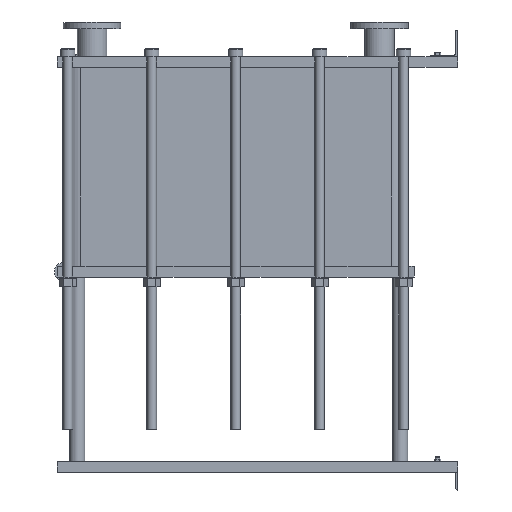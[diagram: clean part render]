
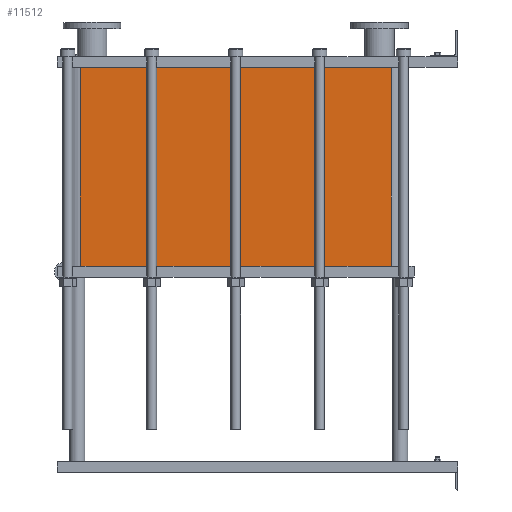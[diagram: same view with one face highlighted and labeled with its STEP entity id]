
A CAD part, left-side view. The second image highlights one B-rep face of the part: STEP entity #11512.
In plain terms, the highlighted planar face has unit normal (-1, 0, 0).
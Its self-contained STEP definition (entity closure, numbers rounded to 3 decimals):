
#1129=LINE('',#23232,#2102);
#1130=LINE('',#23236,#2103);
#1131=LINE('',#23238,#2104);
#1132=LINE('',#23239,#2105);
#2102=VECTOR('',#15887,10.);
#2103=VECTOR('',#15892,10.);
#2104=VECTOR('',#15893,10.);
#2105=VECTOR('',#15894,10.);
#3267=FACE_OUTER_BOUND('',#4093,.T.);
#4093=EDGE_LOOP('',(#10103,#10104,#10105,#10106));
#5642=VERTEX_POINT('',#23229);
#5643=VERTEX_POINT('',#23231);
#5644=VERTEX_POINT('',#23235);
#5645=VERTEX_POINT('',#23237);
#7159=EDGE_CURVE('',#5643,#5642,#1129,.T.);
#7161=EDGE_CURVE('',#5642,#5644,#1130,.T.);
#7162=EDGE_CURVE('',#5645,#5644,#1131,.T.);
#7163=EDGE_CURVE('',#5645,#5643,#1132,.T.);
#10103=ORIENTED_EDGE('',*,*,#7161,.T.);
#10104=ORIENTED_EDGE('',*,*,#7162,.F.);
#10105=ORIENTED_EDGE('',*,*,#7163,.T.);
#10106=ORIENTED_EDGE('',*,*,#7159,.T.);
#10857=PLANE('',#12751);
#11512=ADVANCED_FACE('',(#3267),#10857,.T.);
#12751=AXIS2_PLACEMENT_3D('',#23234,#15890,#15891);
#15887=DIRECTION('',(0.,0.,-1.));
#15890=DIRECTION('center_axis',(-1.,0.,0.));
#15891=DIRECTION('ref_axis',(0.,1.,0.));
#15892=DIRECTION('',(0.,-1.,0.));
#15893=DIRECTION('',(0.,0.,-1.));
#15894=DIRECTION('',(0.,1.,0.));
#23229=CARTESIAN_POINT('',(-200.,1414.,-745.2));
#23231=CARTESIAN_POINT('',(-200.,1414.,0.));
#23232=CARTESIAN_POINT('',(-200.,1414.,0.));
#23234=CARTESIAN_POINT('Origin',(-200.,248.,0.));
#23235=CARTESIAN_POINT('',(-200.,248.,-745.2));
#23236=CARTESIAN_POINT('',(-200.,539.5,-745.2));
#23237=CARTESIAN_POINT('',(-200.,248.,0.));
#23238=CARTESIAN_POINT('',(-200.,248.,0.));
#23239=CARTESIAN_POINT('',(-200.,248.,0.));
